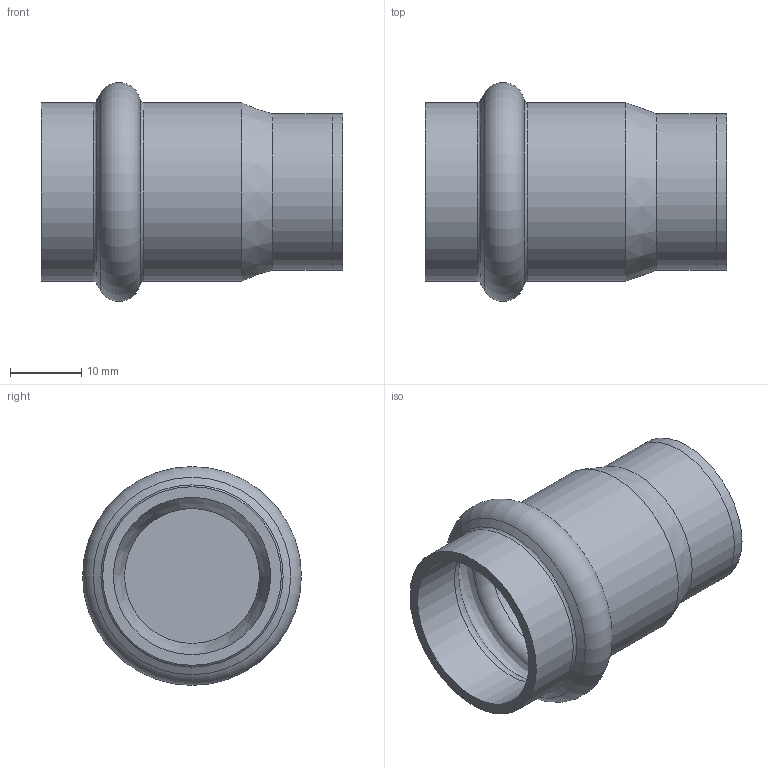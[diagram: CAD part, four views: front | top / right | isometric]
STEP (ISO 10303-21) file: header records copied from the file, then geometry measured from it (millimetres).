
FILE_DESCRIPTION((''),'2;1');
FILE_NAME('G:\Nirosan-Schmiedefeld\Technics\CAD\Bauteile VA\022\6930122(1).stp','2011-10-26T14:38:13',('herberg'),(''),'Autodesk Inventor 2009','Autodesk Inventor 2009','');
FILE_SCHEMA(('AUTOMOTIVE_DESIGN { 1 0 10303 214 1 1 1 1 }'));
Length unit declared in the file: millimetre
Products named in the file (3): 6930122(1); 6924322HM(1); D_6930122(0)
Assembly tree (2 placements, depth 2):
  6930122(1)
    6924322HM(1)
    D_6930122(0)
Bounding box: 42.5 x 30.8 x 30.8 mm (x, y, z)
Volume: 5443.8 mm3; surface area: 7569.5 mm2
Topology: 2 solids, 2 shells, 21 faces, 37 edges, 20 vertices
Faces by surface type: cylinder 7, cone 4, plane 4, torus 3, bspline 3
Full cylindrical faces by diameter (mm): 19 x1, 22 x2, 22.15 x2, 25.15 x2
Entity records: 663 total; most frequent: CARTESIAN_POINT 234, DIRECTION 86, AXIS2_PLACEMENT_3D 43, ORIENTED_EDGE 40, EDGE_LOOP 40, FACE_OUTER_BOUND 21, ADVANCED_FACE 21, VERTEX_POINT 20
